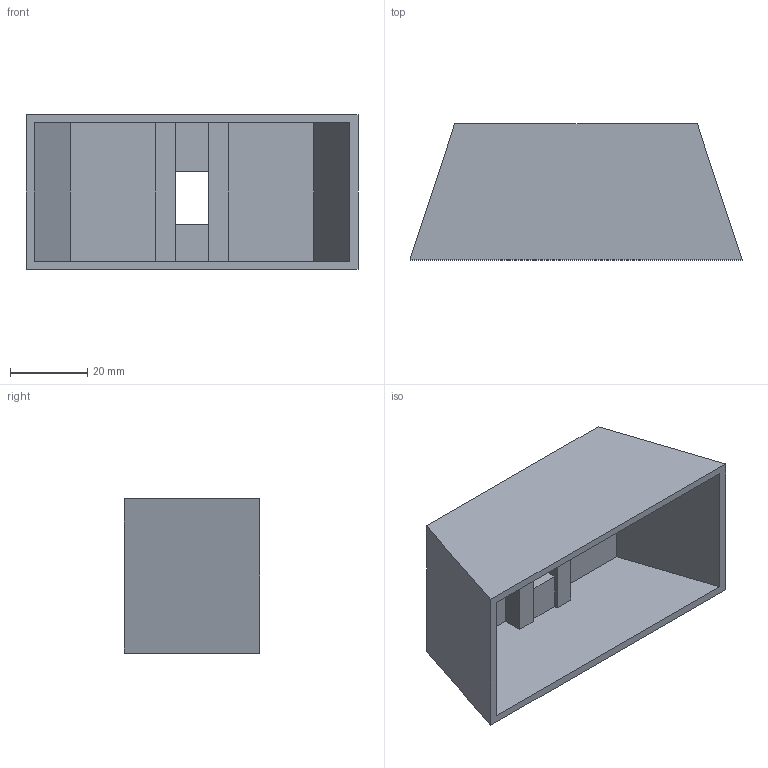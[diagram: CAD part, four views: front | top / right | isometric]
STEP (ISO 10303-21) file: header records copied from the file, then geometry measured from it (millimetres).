
FILE_DESCRIPTION(/* description */ (''),/* implementation_level */ '2;1');
FILE_NAME(/* name */ 'BASE step.step',/* time_stamp */ '2024-09-03T20:24:31+02:00',/* author */ (''),/* organization */ (''),/* preprocessor_version */ 'ST-DEVELOPER v20',/* originating_system */ 'Autodesk Translation Framework v13.14.0.145',/* authorisation */ '');
FILE_SCHEMA (('AUTOMOTIVE_DESIGN { 1 0 10303 214 3 1 1 }'));
Length unit declared in the file: millimetre
Products named in the file (2): Cristal lamp; Base
Assembly tree (1 placements, depth 2):
  Cristal lamp
    Base
Bounding box: 86.2 x 35.25 x 40 mm (x, y, z)
Volume: 29617 mm3; surface area: 20568.8 mm2
Topology: 1 solids, 1 shells, 25 faces, 72 edges, 48 vertices
Faces by surface type: plane 24, cylinder 1
Entity records: 867 total; most frequent: CARTESIAN_POINT 148, ORIENTED_EDGE 144, DIRECTION 132, EDGE_CURVE 72, LINE 68, VECTOR 68, VERTEX_POINT 48, AXIS2_PLACEMENT_3D 32
